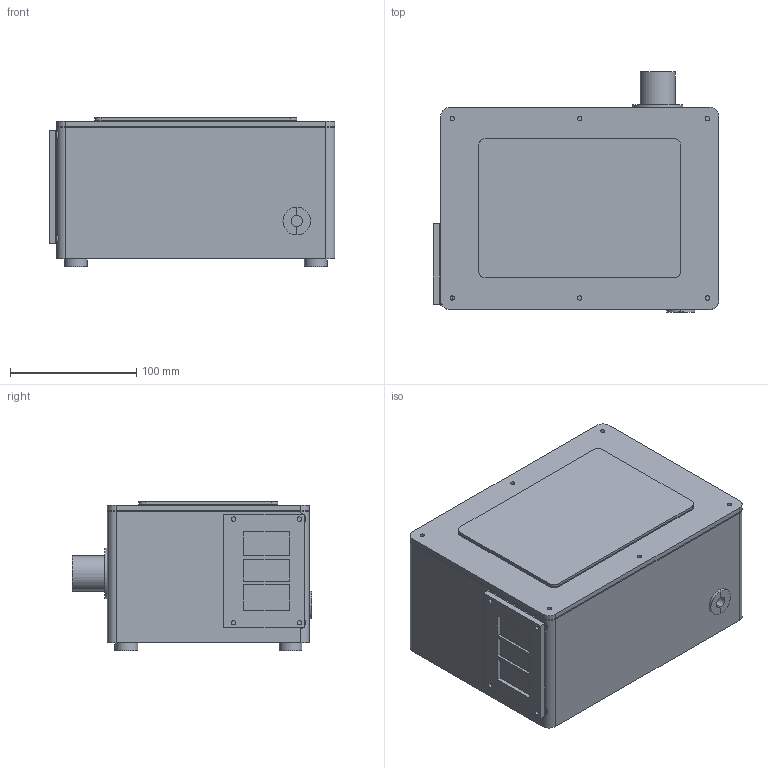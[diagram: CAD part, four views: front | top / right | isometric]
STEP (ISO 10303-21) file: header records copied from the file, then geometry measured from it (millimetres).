
FILE_DESCRIPTION(('FreeCAD Model'),'2;1');
FILE_NAME('Open CASCADE Shape Model','2026-10-19T19:41:49',('Author'),( ''),'Open CASCADE STEP processor 7.8','FreeCAD','Unknown');
FILE_SCHEMA(('AUTOMOTIVE_DESIGN { 1 0 10303 214 1 1 1 1 }'));
Length unit declared in the file: millimetre
Products named in the file (23): WM6850 quiet enclosure - Rev A BENCH PROTOTYPE; 01 Base with intake labyrinth; 02 Rim and baffle gasket; 03 Removable lid; 04 External damping layer; 05 External mass plate; 06 Isolated blower carrier; 07 Isolator 1; 07 Isolator 2; 07 Isolator 3; 07 Isolator 4; 08 WM6850 SUPPLIER ENVELOPE ONLY; 09 Flexible outlet sleeve; 10 Outlet wall grommet; 11 Intake filter retainer; 12 Filter frame gasket; 13 Filter MEDIA ENVELOPE; 14 Split cable gland half 1; 14 Split cable gland half 2; 15 External foot 1; 15 External foot 2; 15 External foot 3; 15 External foot 4
Assembly tree (22 placements, depth 2):
  WM6850 quiet enclosure - Rev A BENCH PROTOTYPE
    01 Base with intake labyrinth
    02 Rim and baffle gasket
    03 Removable lid
    04 External damping layer
    05 External mass plate
    06 Isolated blower carrier
    07 Isolator 1
    07 Isolator 2
    07 Isolator 3
    07 Isolator 4
    08 WM6850 SUPPLIER ENVELOPE ONLY
    09 Flexible outlet sleeve
    10 Outlet wall grommet
    11 Intake filter retainer
    12 Filter frame gasket
    13 Filter MEDIA ENVELOPE
    14 Split cable gland half 1
    14 Split cable gland half 2
    15 External foot 1
    15 External foot 2
    15 External foot 3
    15 External foot 4
Bounding box: 226 x 190 x 118 mm (x, y, z)
Volume: 1004725.4 mm3; surface area: 512823.8 mm2
Topology: 22 solids, 22 shells, 308 faces, 716 edges, 485 vertices
Faces by surface type: plane 179, cylinder 128, cone 1
Full cylindrical faces by diameter (mm): 3 x3, 3.5 x27, 4.6 x14, 9 x3, 10 x2, 12 x4, 14.2 x1, 15 x1, 16 x5, 18 x5, 21.9 x1, 22 x3, 24 x1, 24.1 x1, 28 x2, 34 x2, 40 x2, 56 x1
Entity records: 9739 total; most frequent: CARTESIAN_POINT 1906, DIRECTION 1638, ORIENTED_EDGE 1432, EDGE_CURVE 716, AXIS2_PLACEMENT_3D 610, VERTEX_POINT 485, FACE_BOUND 419, EDGE_LOOP 419
